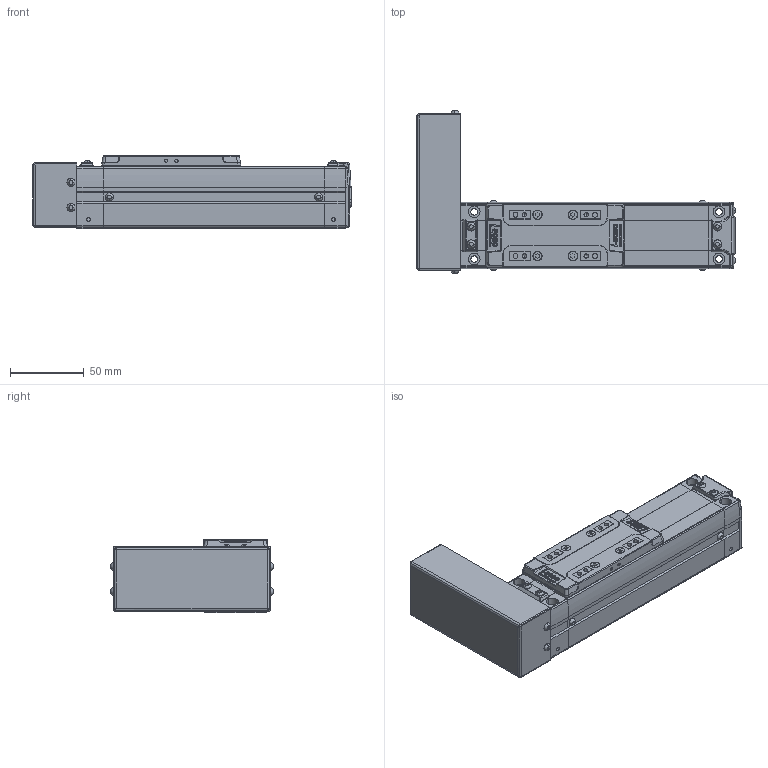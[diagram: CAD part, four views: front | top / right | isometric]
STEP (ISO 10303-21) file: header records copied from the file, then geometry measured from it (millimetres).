
FILE_DESCRIPTION(('STEP AP214'),'1');
FILE_NAME('Z:/Web/3D/SAN45/2013.ver/STP/SAN45-50PL.stp','2013-05-14T06:39:11',(' '),(' '),'Spatial InterOp 3D',' ',' ');
FILE_SCHEMA(('automotive_design'));
Length unit declared in the file: millimetre
Products named in the file (28): BTCV-SAN45; BHCS M3 X 6L; BODY-SAN45; REAR-SAN45; RRCV-SAN45; BHCS M3 x 6L; FRONT-SAN45; SHAFT; RN8 x 0.75; SSFX-SAN45; SLIDE-SAN45; SLCV-IM45; FHCS M3 x 6L
Bounding box: 216.15 x 110.13 x 50 mm (x, y, z)
Volume: 474574.2 mm3; surface area: 98822.8 mm2
Topology: 28 solids, 28 shells, 1680 faces, 4367 edges, 2828 vertices
Faces by surface type: plane 887, cylinder 583, cone 112, bspline 40, sphere 40, torus 12, extrusion 6
Entity records: 69397 total; most frequent: CARTESIAN_POINT 13269, DIRECTION 9084, ORIENTED_EDGE 8662, EDGE_CURVE 4331, AXIS2_PLACEMENT_3D 3192, VERTEX_POINT 2828, VECTOR 2700, LINE 2694
